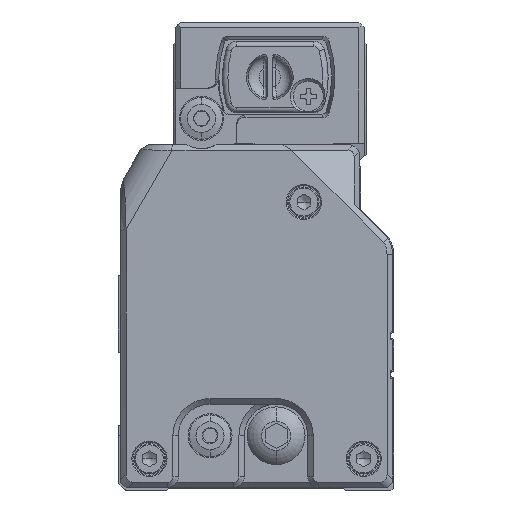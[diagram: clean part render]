
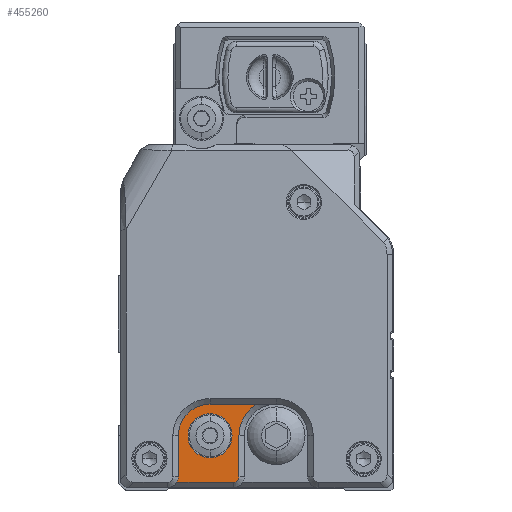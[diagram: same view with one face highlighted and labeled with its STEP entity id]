
A CAD part, left-side view. The second image highlights one B-rep face of the part: STEP entity #455260.
In plain terms, the highlighted planar face has unit normal (-1, 0, 0) as drawn and (1, 0, 0) by its records, which use the part's own axes.
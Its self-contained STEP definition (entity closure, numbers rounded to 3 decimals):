
#432470=CARTESIAN_POINT('',(664.177,2.462,
3.148));
#432480=DIRECTION('',(-1.,0.,0.));
#432490=DIRECTION('',(0.,1.,0.));
#432500=AXIS2_PLACEMENT_3D('',#432470,#432480,#432490);
#432510=CIRCLE('',#432500,5.75);
#432520=CARTESIAN_POINT('',(664.177,8.212,
3.148));
#432530=VERTEX_POINT('',#432520);
#432540=CARTESIAN_POINT('',(664.177,2.462,
-2.602));
#432550=VERTEX_POINT('',#432540);
#432560=EDGE_CURVE('',#432530,#432550,#432510,.T.);
#444730=CARTESIAN_POINT('',(664.177,2.462,
-0.852));
#444740=VERTEX_POINT('',#444730);
#444770=CARTESIAN_POINT('',(664.177,2.462,
3.148));
#444780=DIRECTION('',(-1.,0.,0.));
#444790=DIRECTION('',(0.,0.,-1.));
#444800=AXIS2_PLACEMENT_3D('',#444770,#444780,#444790);
#444810=CIRCLE('',#444800,4.);
#444820=CARTESIAN_POINT('',(664.177,2.462,
7.148));
#444830=VERTEX_POINT('',#444820);
#444840=EDGE_CURVE('',#444740,#444830,#444810,.T.);
#445080=CARTESIAN_POINT('',(664.177,4.212,
11.598));
#445090=DIRECTION('',(0.,-1.,0.));
#445100=VECTOR('',#445090,1.);
#445110=LINE('',#445080,#445100);
#445120=CARTESIAN_POINT('',(664.177,8.48,
11.598));
#445130=VERTEX_POINT('',#445120);
#445140=CARTESIAN_POINT('',(664.177,-1.788,
11.598));
#445150=VERTEX_POINT('',#445140);
#445160=EDGE_CURVE('',#445130,#445150,#445110,.T.);
#445570=CARTESIAN_POINT('',(664.177,-1.788,
10.598));
#445580=DIRECTION('',(-1.,0.,0.));
#445590=DIRECTION('',(0.,1.,0.));
#445600=AXIS2_PLACEMENT_3D('',#445570,#445580,#445590);
#445610=CIRCLE('',#445600,1.);
#445620=CARTESIAN_POINT('',(664.177,-2.788,
10.598));
#445630=VERTEX_POINT('',#445620);
#445640=EDGE_CURVE('',#445630,#445150,#445610,.T.);
#446000=CARTESIAN_POINT('',(664.177,8.212,
10.598));
#446010=VERTEX_POINT('',#446000);
#446040=CARTESIAN_POINT('',(664.177,10.212,
10.598));
#446050=DIRECTION('',(-1.,0.,0.));
#446060=DIRECTION('',(0.,1.,0.));
#446070=AXIS2_PLACEMENT_3D('',#446040,#446050,#446060);
#446080=CIRCLE('',#446070,2.);
#446090=EDGE_CURVE('',#446010,#445130,#446080,.T.);
#453190=CARTESIAN_POINT('',(664.177,-2.788,
6.873));
#453200=DIRECTION('',(0.,0.,-1.));
#453210=VECTOR('',#453200,1.);
#453220=LINE('',#453190,#453210);
#453230=CARTESIAN_POINT('',(664.177,-2.788,
3.148));
#453240=VERTEX_POINT('',#453230);
#453250=EDGE_CURVE('',#445630,#453240,#453220,.T.);
#453890=CARTESIAN_POINT('',(664.177,-9.538,
3.148));
#453900=DIRECTION('',(-1.,0.,0.));
#453910=DIRECTION('',(0.,1.,0.));
#453920=AXIS2_PLACEMENT_3D('',#453890,#453900,#453910);
#453930=CIRCLE('',#453920,6.75);
#453940=CARTESIAN_POINT('',(664.177,-6.002,
-2.602));
#453950=VERTEX_POINT('',#453940);
#453960=EDGE_CURVE('',#453240,#453950,#453930,.T.);
#454650=CARTESIAN_POINT('',(664.177,-5.888,
-2.602));
#454660=DIRECTION('',(0.,1.,0.));
#454670=VECTOR('',#454660,1.);
#454680=LINE('',#454650,#454670);
#454690=EDGE_CURVE('',#453950,#432550,#454680,.T.);
#455010=CARTESIAN_POINT('',(664.177,-5.938,
-12.8));
#455020=DIRECTION('',(-1.,0.,0.));
#455030=DIRECTION('',(0.,0.,-1.));
#455040=AXIS2_PLACEMENT_3D('',#455010,#455020,#455030);
#455050=PLANE('',#455040);
#455060=ORIENTED_EDGE('',*,*,#445160,.T.);
#455070=ORIENTED_EDGE('',*,*,#446090,.T.);
#455080=CARTESIAN_POINT('',(664.177,8.212,
3.148));
#455090=DIRECTION('',(0.,0.,1.));
#455100=VECTOR('',#455090,1.);
#455110=LINE('',#455080,#455100);
#455120=EDGE_CURVE('',#432530,#446010,#455110,.T.);
#455130=ORIENTED_EDGE('',*,*,#455120,.T.);
#455140=ORIENTED_EDGE('',*,*,#432560,.F.);
#455150=ORIENTED_EDGE('',*,*,#454690,.T.);
#455160=ORIENTED_EDGE('',*,*,#453960,.T.);
#455170=ORIENTED_EDGE('',*,*,#453250,.T.);
#455180=ORIENTED_EDGE('',*,*,#445640,.F.);
#455190=EDGE_LOOP('',(#455180,#455170,#455160,#455150,#455140,#455130,
#455070,#455060));
#455200=FACE_OUTER_BOUND('',#455190,.T.);
#455210=ORIENTED_EDGE('',*,*,#444840,.T.);
#455220=EDGE_CURVE('',#444830,#444740,#444810,.T.);
#455230=ORIENTED_EDGE('',*,*,#455220,.T.);
#455240=EDGE_LOOP('',(#455230,#455210));
#455250=FACE_BOUND('',#455240,.T.);
#455260=ADVANCED_FACE('',(#455200,#455250),#455050,.F.);
